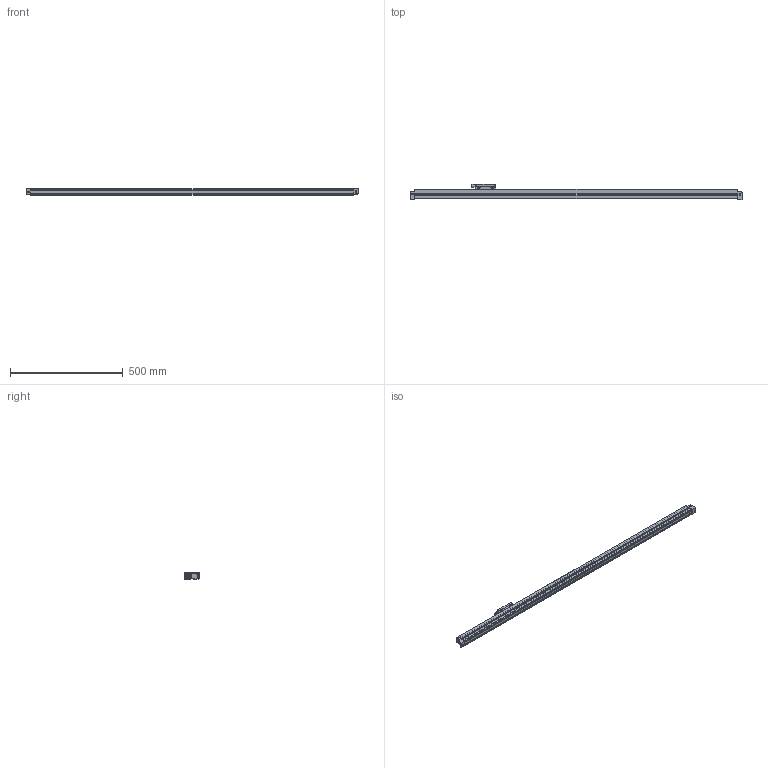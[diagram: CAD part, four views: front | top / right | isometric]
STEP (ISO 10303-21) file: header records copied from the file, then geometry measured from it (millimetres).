
FILE_DESCRIPTION (( 'STEP AP214' ), '1' );
FILE_NAME ('JCXE-L-1300.STEP', '2021-12-02T09:34:02', ( '微软用户' ), ( '微软中国' ), 'SwSTEP 2.0', 'SolidWorks 2010', '' );
FILE_SCHEMA (( 'AUTOMOTIVE_DESIGN' ));
Length unit declared in the file: millimetre
Products named in the file (7): MSBR-3_1-1; PRT0002; 嫖掑喜旯L1200; MSBR-4_1-1; MSBR-5_1-1; JCXE-L-1300; MSBR-2_1-1
Assembly tree (6 placements, depth 2):
  JCXE-L-1300
    MSBR-3_1-1
    PRT0002
    嫖掑喜旯L1200
    MSBR-2_1-1
    MSBR-4_1-1
    MSBR-5_1-1
Bounding box: 1474 x 66.8 x 29.5 mm (x, y, z)
Volume: 700791.7 mm3; surface area: 454376.1 mm2
Topology: 6 solids, 6 shells, 547 faces, 1493 edges, 984 vertices
Faces by surface type: plane 331, cylinder 161, cone 27, bspline 25, sphere 3
Entity records: 18988 total; most frequent: CARTESIAN_POINT 4706, ORIENTED_EDGE 2978, DIRECTION 2838, EDGE_CURVE 1489, VECTOR 1018, LINE 1018, VERTEX_POINT 982, AXIS2_PLACEMENT_3D 910
